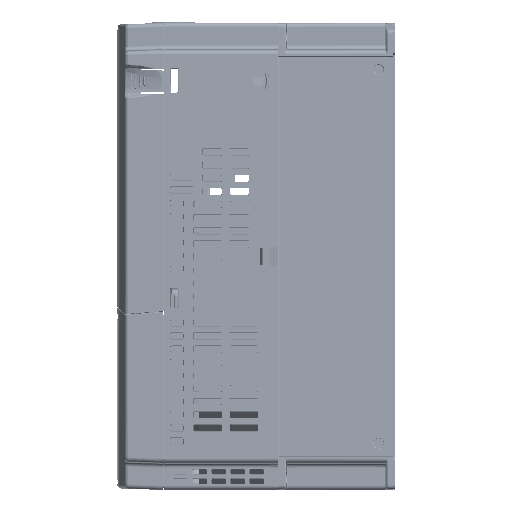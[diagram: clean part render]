
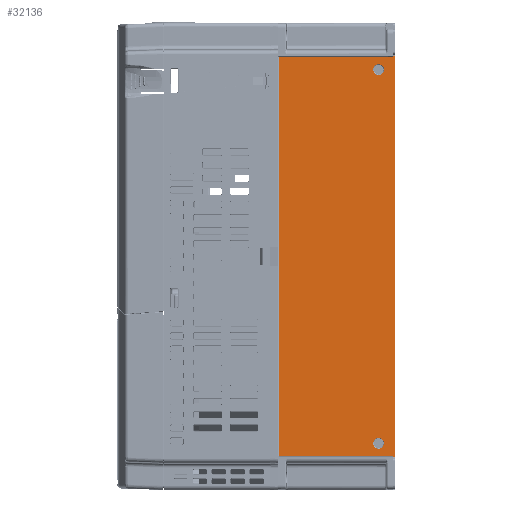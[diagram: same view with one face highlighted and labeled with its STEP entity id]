
A CAD part, left-side view. The second image highlights one B-rep face of the part: STEP entity #32136.
In plain terms, the highlighted planar face has unit normal (-1, 0, 0).
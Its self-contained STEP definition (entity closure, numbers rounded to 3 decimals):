
#3712=DIRECTION('',(0.,-1.,0.));
#3713=VECTOR('',#3712,1.2);
#3714=CARTESIAN_POINT('',(-91.,-84.2,-137.5));
#3715=LINE('',#3714,#3713);
#3716=DIRECTION('',(0.,0.,1.));
#3717=VECTOR('',#3716,0.994);
#3718=CARTESIAN_POINT('',(-91.,-84.2,136.506));
#3719=LINE('',#3718,#3717);
#3720=DIRECTION('',(0.,-1.,0.));
#3721=VECTOR('',#3720,1.2);
#3722=CARTESIAN_POINT('',(-91.,-84.2,137.5));
#3723=LINE('',#3722,#3721);
#3724=DIRECTION('',(0.,0.,-1.));
#3725=VECTOR('',#3724,275.);
#3726=CARTESIAN_POINT('',(-91.,-85.4,137.5));
#3727=LINE('',#3726,#3725);
#3728=DIRECTION('',(0.,0.,1.));
#3729=VECTOR('',#3728,0.991);
#3730=CARTESIAN_POINT('',(-91.,-84.2,-137.5));
#3731=LINE('',#3730,#3729);
#3732=CARTESIAN_POINT('',(-91.,-74.4,128.));
#3733=DIRECTION('',(-1.,0.,0.));
#3734=DIRECTION('',(0.,-1.,0.));
#3735=AXIS2_PLACEMENT_3D('',#3732,#3733,#3734);
#3737=CARTESIAN_POINT('',(-91.,-74.4,128.));
#3738=DIRECTION('',(-1.,0.,0.));
#3739=DIRECTION('',(0.,1.,0.));
#3740=AXIS2_PLACEMENT_3D('',#3737,#3738,#3739);
#3742=CARTESIAN_POINT('',(-91.,-74.4,-128.));
#3743=DIRECTION('',(-1.,0.,0.));
#3744=DIRECTION('',(0.,-1.,0.));
#3745=AXIS2_PLACEMENT_3D('',#3742,#3743,#3744);
#3747=CARTESIAN_POINT('',(-91.,-74.4,-128.));
#3748=DIRECTION('',(-1.,0.,0.));
#3749=DIRECTION('',(0.,1.,0.));
#3750=AXIS2_PLACEMENT_3D('',#3747,#3748,#3749);
#3752=DIRECTION('',(0.,1.,0.));
#3753=VECTOR('',#3752,78.206);
#3754=CARTESIAN_POINT('',(-91.,-84.2,136.506));
#3755=LINE('',#3754,#3753);
#3784=DIRECTION('',(0.,0.,-1.));
#3785=VECTOR('',#3784,273.015);
#3786=CARTESIAN_POINT('',(-91.,-5.994,
136.506));
#3787=LINE('',#3786,#3785);
#16617=DIRECTION('',(0.,-1.,0.));
#16618=VECTOR('',#16617,78.209);
#16619=CARTESIAN_POINT('',(-91.,-5.991,-136.509));
#16620=LINE('',#16619,#16618);
#23792=CARTESIAN_POINT('',(-91.,-85.4,-137.5));
#23793=VERTEX_POINT('',#23792);
#23794=CARTESIAN_POINT('',(-91.,-85.4,137.5));
#23795=VERTEX_POINT('',#23794);
#24940=CARTESIAN_POINT('',(-91.,-84.2,-136.509));
#24941=VERTEX_POINT('',#24940);
#24942=CARTESIAN_POINT('',(-91.,-84.2,-137.5));
#24943=VERTEX_POINT('',#24942);
#25067=CARTESIAN_POINT('',(-91.,-84.2,137.5));
#25069=VERTEX_POINT('',#25067);
#25070=CARTESIAN_POINT('',(-91.,-84.2,136.506));
#25071=VERTEX_POINT('',#25070);
#25585=CARTESIAN_POINT('',(-91.,-70.721,-128.));
#25586=CARTESIAN_POINT('',(-91.,-78.079,-128.));
#25587=VERTEX_POINT('',#25585);
#25588=VERTEX_POINT('',#25586);
#25589=CARTESIAN_POINT('',(-91.,-5.994,
136.506));
#25590=VERTEX_POINT('',#25589);
#25591=CARTESIAN_POINT('',(-91.,-5.991,-136.509));
#25592=VERTEX_POINT('',#25591);
#25593=CARTESIAN_POINT('',(-91.,-78.079,128.));
#25594=CARTESIAN_POINT('',(-91.,-70.721,128.));
#25595=VERTEX_POINT('',#25593);
#25596=VERTEX_POINT('',#25594);
#32104=CARTESIAN_POINT('',(-91.,-85.4,138.));
#32105=DIRECTION('',(1.,0.,0.));
#32106=DIRECTION('',(0.,1.,0.));
#32107=AXIS2_PLACEMENT_3D('',#32104,#32105,#32106);
#32108=PLANE('',#32107);
#32110=ORIENTED_EDGE('',*,*,#32109,.F.);
#32112=ORIENTED_EDGE('',*,*,#32111,.T.);
#32114=ORIENTED_EDGE('',*,*,#32113,.T.);
#32115=ORIENTED_EDGE('',*,*,#32075,.T.);
#32116=ORIENTED_EDGE('',*,*,#32099,.F.);
#32117=ORIENTED_EDGE('',*,*,#31822,.T.);
#32119=ORIENTED_EDGE('',*,*,#32118,.F.);
#32121=ORIENTED_EDGE('',*,*,#32120,.F.);
#32122=EDGE_LOOP('',(#32110,#32112,#32114,#32115,#32116,#32117,#32119,#32121));
#32123=FACE_OUTER_BOUND('',#32122,.F.);
#32125=ORIENTED_EDGE('',*,*,#32124,.T.);
#32127=ORIENTED_EDGE('',*,*,#32126,.T.);
#32128=EDGE_LOOP('',(#32125,#32127));
#32129=FACE_BOUND('',#32128,.F.);
#32131=ORIENTED_EDGE('',*,*,#32130,.T.);
#32133=ORIENTED_EDGE('',*,*,#32132,.T.);
#32134=EDGE_LOOP('',(#32131,#32133));
#32135=FACE_BOUND('',#32134,.F.);
#3736=CIRCLE('',#3735,3.679);
#3741=CIRCLE('',#3740,3.679);
#3746=CIRCLE('',#3745,3.679);
#3751=CIRCLE('',#3750,3.679);
#31822=EDGE_CURVE('',#24943,#24941,#3731,.T.);
#32075=EDGE_CURVE('',#23795,#23793,#3727,.T.);
#32099=EDGE_CURVE('',#24943,#23793,#3715,.T.);
#32109=EDGE_CURVE('',#25071,#25590,#3755,.T.);
#32111=EDGE_CURVE('',#25071,#25069,#3719,.T.);
#32113=EDGE_CURVE('',#25069,#23795,#3723,.T.);
#32118=EDGE_CURVE('',#25592,#24941,#16620,.T.);
#32120=EDGE_CURVE('',#25590,#25592,#3787,.T.);
#32124=EDGE_CURVE('',#25595,#25596,#3736,.T.);
#32126=EDGE_CURVE('',#25596,#25595,#3741,.T.);
#32130=EDGE_CURVE('',#25588,#25587,#3746,.T.);
#32132=EDGE_CURVE('',#25587,#25588,#3751,.T.);
#32136=ADVANCED_FACE('',(#32123,#32129,#32135),#32108,.F.);
